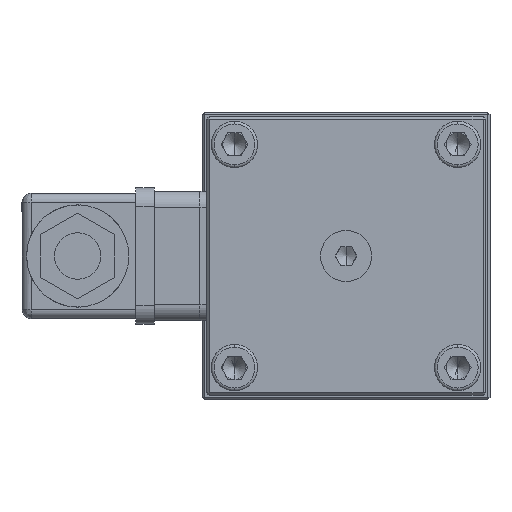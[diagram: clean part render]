
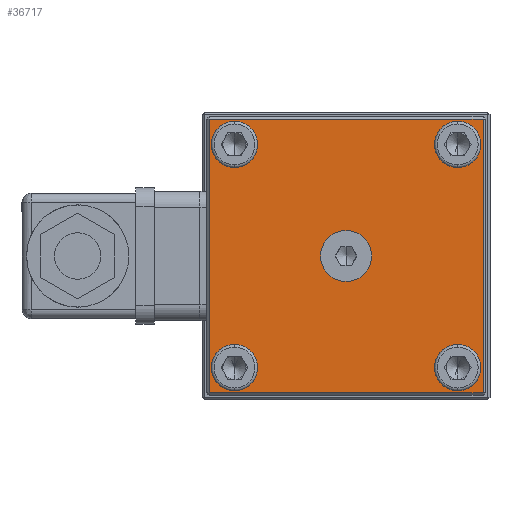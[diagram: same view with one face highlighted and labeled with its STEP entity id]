
A CAD part, left-side view. The second image highlights one B-rep face of the part: STEP entity #36717.
In plain terms, the highlighted planar face has unit normal (-1, 0, 0).
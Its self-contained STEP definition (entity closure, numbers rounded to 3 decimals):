
#34 = CARTESIAN_POINT ( 'NONE',  ( -81.2, -24.04, -29.04 ) ) ;
#414 = ORIENTED_EDGE ( 'NONE', *, *, #26612, .F. ) ;
#515 = EDGE_CURVE ( 'NONE', #12998, #30713, #37037, .T. ) ;
#541 = DIRECTION ( 'NONE',  ( -1., 0., 0. ) ) ;
#762 = DIRECTION ( 'NONE',  ( 0., 0., 1. ) ) ;
#793 = AXIS2_PLACEMENT_3D ( 'NONE', #14648, #38155, #18029 ) ;
#1115 = EDGE_CURVE ( 'NONE', #18693, #3264, #35880, .T. ) ;
#1633 = VERTEX_POINT ( 'NONE', #34 ) ;
#1898 = CARTESIAN_POINT ( 'NONE',  ( -81.2, -24.04, 19.04 ) ) ;
#2346 = FACE_BOUND ( 'NONE', #9411, .T. ) ;
#2530 = CIRCLE ( 'NONE', #8392, 5. ) ;
#2816 = ORIENTED_EDGE ( 'NONE', *, *, #4714, .F. ) ;
#2901 = CARTESIAN_POINT ( 'NONE',  ( -81.2, -24.04, 24.04 ) ) ;
#3180 = VERTEX_POINT ( 'NONE', #34249 ) ;
#3264 = VERTEX_POINT ( 'NONE', #38477 ) ;
#3431 = EDGE_CURVE ( 'NONE', #22591, #34750, #42279, .T. ) ;
#3665 = EDGE_LOOP ( 'NONE', ( #27364, #43334, #5567, #4191 ) ) ;
#3873 = EDGE_CURVE ( 'NONE', #37849, #3180, #10128, .T. ) ;
#4191 = ORIENTED_EDGE ( 'NONE', *, *, #35400, .T. ) ;
#4383 = EDGE_CURVE ( 'NONE', #33351, #25262, #6298, .T. ) ;
#4632 = DIRECTION ( 'NONE',  ( 0., 0., -1. ) ) ;
#4714 = EDGE_CURVE ( 'NONE', #30713, #12998, #17819, .T. ) ;
#5113 = EDGE_LOOP ( 'NONE', ( #20917, #21027 ) ) ;
#5419 = CARTESIAN_POINT ( 'NONE',  ( -81.2, 0., 0. ) ) ;
#5509 = FACE_BOUND ( 'NONE', #25897, .T. ) ;
#5567 = ORIENTED_EDGE ( 'NONE', *, *, #34795, .T. ) ;
#5853 = VERTEX_POINT ( 'NONE', #35999 ) ;
#6284 = DIRECTION ( 'NONE',  ( 0., 0., 1. ) ) ;
#6298 = CIRCLE ( 'NONE', #14122, 5. ) ;
#6505 = VECTOR ( 'NONE', #9082, 1000. ) ;
#6663 = VERTEX_POINT ( 'NONE', #23213 ) ;
#7133 = ORIENTED_EDGE ( 'NONE', *, *, #3873, .F. ) ;
#7824 = AXIS2_PLACEMENT_3D ( 'NONE', #22598, #39577, #17082 ) ;
#8392 = AXIS2_PLACEMENT_3D ( 'NONE', #12828, #36375, #16236 ) ;
#8815 = DIRECTION ( 'NONE',  ( 0., 0., 1. ) ) ;
#9082 = DIRECTION ( 'NONE',  ( 0., -1., 0. ) ) ;
#9343 = CARTESIAN_POINT ( 'NONE',  ( -81.2, -24.04, 24.04 ) ) ;
#9411 = EDGE_LOOP ( 'NONE', ( #22343, #41439 ) ) ;
#9548 = CARTESIAN_POINT ( 'NONE',  ( -81.2, 24.04, -24.04 ) ) ;
#9699 = CARTESIAN_POINT ( 'NONE',  ( -81.2, -24.04, 29.04 ) ) ;
#10128 = CIRCLE ( 'NONE', #36365, 5. ) ;
#10221 = AXIS2_PLACEMENT_3D ( 'NONE', #14905, #38395, #18277 ) ;
#10274 = FACE_BOUND ( 'NONE', #5113, .T. ) ;
#11474 = AXIS2_PLACEMENT_3D ( 'NONE', #19941, #43442, #23297 ) ;
#12181 = EDGE_CURVE ( 'NONE', #3180, #37849, #2530, .T. ) ;
#12708 = DIRECTION ( 'NONE',  ( 0., 0., 1. ) ) ;
#12828 = CARTESIAN_POINT ( 'NONE',  ( -81.2, 24.04, -24.04 ) ) ;
#12918 = DIRECTION ( 'NONE',  ( 0., 0., -1. ) ) ;
#12998 = VERTEX_POINT ( 'NONE', #34975 ) ;
#14041 = EDGE_LOOP ( 'NONE', ( #18872, #2816 ) ) ;
#14122 = AXIS2_PLACEMENT_3D ( 'NONE', #9343, #32863, #12708 ) ;
#14238 = LINE ( 'NONE', #14418, #40018 ) ;
#14418 = CARTESIAN_POINT ( 'NONE',  ( -81.2, 30., 29.5 ) ) ;
#14648 = CARTESIAN_POINT ( 'NONE',  ( -81.2, -24.04, -24.04 ) ) ;
#14905 = CARTESIAN_POINT ( 'NONE',  ( -81.2, 24.04, 24.04 ) ) ;
#16236 = DIRECTION ( 'NONE',  ( 0., 0., -1. ) ) ;
#16310 = CARTESIAN_POINT ( 'NONE',  ( -81.2, 29.5, 29.5 ) ) ;
#17082 = DIRECTION ( 'NONE',  ( 0., 0., -1. ) ) ;
#17819 = CIRCLE ( 'NONE', #10221, 5. ) ;
#18029 = DIRECTION ( 'NONE',  ( 0., 0., -1. ) ) ;
#18277 = DIRECTION ( 'NONE',  ( 0., 0., -1. ) ) ;
#18693 = VERTEX_POINT ( 'NONE', #22855 ) ;
#18872 = ORIENTED_EDGE ( 'NONE', *, *, #515, .F. ) ;
#19210 = FACE_BOUND ( 'NONE', #23764, .T. ) ;
#19420 = VECTOR ( 'NONE', #4632, 1000. ) ;
#19941 = CARTESIAN_POINT ( 'NONE',  ( -81.2, -24.04, -24.04 ) ) ;
#20008 = CIRCLE ( 'NONE', #21133, 5.5 ) ;
#20275 = AXIS2_PLACEMENT_3D ( 'NONE', #33681, #41026, #762 ) ;
#20688 = CARTESIAN_POINT ( 'NONE',  ( -81.2, 30., -30. ) ) ;
#20881 = CARTESIAN_POINT ( 'NONE',  ( -81.2, 29.5, -29.5 ) ) ;
#20917 = ORIENTED_EDGE ( 'NONE', *, *, #43221, .F. ) ;
#21027 = ORIENTED_EDGE ( 'NONE', *, *, #38853, .F. ) ;
#21119 = DIRECTION ( 'NONE',  ( 0., 0., 1. ) ) ;
#21133 = AXIS2_PLACEMENT_3D ( 'NONE', #5419, #28970, #8815 ) ;
#21878 = CARTESIAN_POINT ( 'NONE',  ( -81.2, 24.04, -19.04 ) ) ;
#22343 = ORIENTED_EDGE ( 'NONE', *, *, #40013, .F. ) ;
#22591 = VERTEX_POINT ( 'NONE', #20881 ) ;
#22598 = CARTESIAN_POINT ( 'NONE',  ( -81.2, 24.04, 24.04 ) ) ;
#22855 = CARTESIAN_POINT ( 'NONE',  ( -81.2, 0., -5.5 ) ) ;
#23193 = AXIS2_PLACEMENT_3D ( 'NONE', #20688, #541, #24058 ) ;
#23213 = CARTESIAN_POINT ( 'NONE',  ( -81.2, -29.5, 29.5 ) ) ;
#23297 = DIRECTION ( 'NONE',  ( 0., 0., -1. ) ) ;
#23764 = EDGE_LOOP ( 'NONE', ( #414, #29259 ) ) ;
#24058 = DIRECTION ( 'NONE',  ( 0., 0., 1. ) ) ;
#25117 = CARTESIAN_POINT ( 'NONE',  ( -81.2, 24.04, 29.04 ) ) ;
#25262 = VERTEX_POINT ( 'NONE', #9699 ) ;
#25603 = CIRCLE ( 'NONE', #26285, 5. ) ;
#25897 = EDGE_LOOP ( 'NONE', ( #41545, #7133 ) ) ;
#25988 = VECTOR ( 'NONE', #21119, 1000. ) ;
#26285 = AXIS2_PLACEMENT_3D ( 'NONE', #2901, #26472, #6284 ) ;
#26472 = DIRECTION ( 'NONE',  ( -1., 0., 0. ) ) ;
#26612 = EDGE_CURVE ( 'NONE', #25262, #33351, #25603, .T. ) ;
#27328 = PLANE ( 'NONE',  #23193 ) ;
#27364 = ORIENTED_EDGE ( 'NONE', *, *, #3431, .T. ) ;
#28175 = FACE_OUTER_BOUND ( 'NONE', #3665, .T. ) ;
#28370 = LINE ( 'NONE', #38028, #19420 ) ;
#28970 = DIRECTION ( 'NONE',  ( -1., 0., 0. ) ) ;
#29259 = ORIENTED_EDGE ( 'NONE', *, *, #4383, .F. ) ;
#30713 = VERTEX_POINT ( 'NONE', #25117 ) ;
#31187 = DIRECTION ( 'NONE',  ( 0., 1., 0. ) ) ;
#32282 = CIRCLE ( 'NONE', #793, 5. ) ;
#32863 = DIRECTION ( 'NONE',  ( -1., 0., 0. ) ) ;
#33049 = DIRECTION ( 'NONE',  ( -1., 0., 0. ) ) ;
#33351 = VERTEX_POINT ( 'NONE', #1898 ) ;
#33681 = CARTESIAN_POINT ( 'NONE',  ( -81.2, 0., 0. ) ) ;
#33712 = CIRCLE ( 'NONE', #11474, 5. ) ;
#34249 = CARTESIAN_POINT ( 'NONE',  ( -81.2, 24.04, -29.04 ) ) ;
#34750 = VERTEX_POINT ( 'NONE', #38074 ) ;
#34795 = EDGE_CURVE ( 'NONE', #6663, #35135, #14238, .T. ) ;
#34883 = LINE ( 'NONE', #40965, #25988 ) ;
#34975 = CARTESIAN_POINT ( 'NONE',  ( -81.2, 24.04, 19.04 ) ) ;
#35135 = VERTEX_POINT ( 'NONE', #16310 ) ;
#35400 = EDGE_CURVE ( 'NONE', #35135, #22591, #28370, .T. ) ;
#35880 = CIRCLE ( 'NONE', #20275, 5.5 ) ;
#35999 = CARTESIAN_POINT ( 'NONE',  ( -81.2, -24.04, -19.04 ) ) ;
#36365 = AXIS2_PLACEMENT_3D ( 'NONE', #9548, #33049, #12918 ) ;
#36375 = DIRECTION ( 'NONE',  ( -1., 0., 0. ) ) ;
#36717 = ADVANCED_FACE ( 'NONE', ( #19210, #5509, #2346, #28175, #37092, #10274 ), #27328, .T. ) ;
#37037 = CIRCLE ( 'NONE', #7824, 5. ) ;
#37092 = FACE_BOUND ( 'NONE', #14041, .T. ) ;
#37849 = VERTEX_POINT ( 'NONE', #21878 ) ;
#38028 = CARTESIAN_POINT ( 'NONE',  ( -81.2, 29.5, -30. ) ) ;
#38074 = CARTESIAN_POINT ( 'NONE',  ( -81.2, -29.5, -29.5 ) ) ;
#38155 = DIRECTION ( 'NONE',  ( -1., 0., 0. ) ) ;
#38395 = DIRECTION ( 'NONE',  ( -1., 0., 0. ) ) ;
#38477 = CARTESIAN_POINT ( 'NONE',  ( -81.2, 0., 5.5 ) ) ;
#38853 = EDGE_CURVE ( 'NONE', #5853, #1633, #32282, .T. ) ;
#39494 = CARTESIAN_POINT ( 'NONE',  ( -81.2, -30., -29.5 ) ) ;
#39577 = DIRECTION ( 'NONE',  ( -1., 0., 0. ) ) ;
#40013 = EDGE_CURVE ( 'NONE', #3264, #18693, #20008, .T. ) ;
#40018 = VECTOR ( 'NONE', #31187, 1000. ) ;
#40965 = CARTESIAN_POINT ( 'NONE',  ( -81.2, -29.5, 30. ) ) ;
#41026 = DIRECTION ( 'NONE',  ( -1., 0., 0. ) ) ;
#41439 = ORIENTED_EDGE ( 'NONE', *, *, #1115, .F. ) ;
#41545 = ORIENTED_EDGE ( 'NONE', *, *, #12181, .F. ) ;
#42071 = EDGE_CURVE ( 'NONE', #34750, #6663, #34883, .T. ) ;
#42279 = LINE ( 'NONE', #39494, #6505 ) ;
#43221 = EDGE_CURVE ( 'NONE', #1633, #5853, #33712, .T. ) ;
#43334 = ORIENTED_EDGE ( 'NONE', *, *, #42071, .T. ) ;
#43442 = DIRECTION ( 'NONE',  ( -1., 0., 0. ) ) ;
